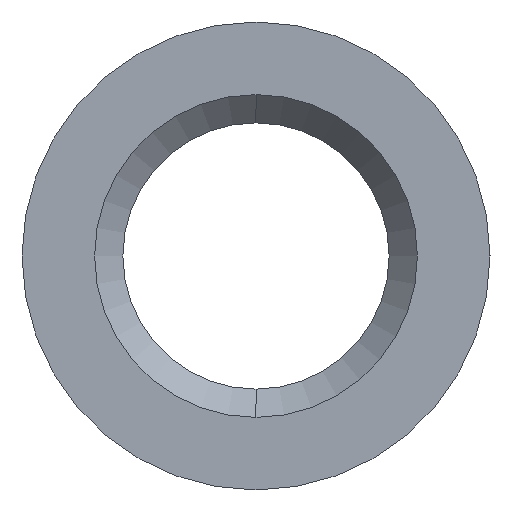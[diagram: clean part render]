
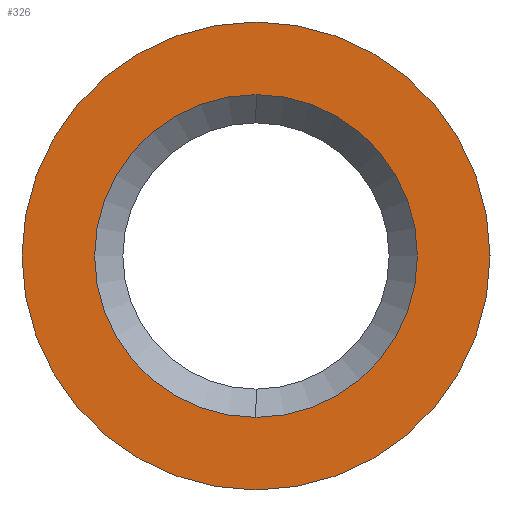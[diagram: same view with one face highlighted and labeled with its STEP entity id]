
A CAD part, left-side view. The second image highlights one B-rep face of the part: STEP entity #326.
In plain terms, the highlighted planar face has unit normal (-1, 0, 0).
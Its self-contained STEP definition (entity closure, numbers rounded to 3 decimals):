
#3 = CARTESIAN_POINT ( 'NONE',  ( -7.4, 0., 0. ) ) ;
#20 = VERTEX_POINT ( 'NONE', #154 ) ;
#66 = DIRECTION ( 'NONE',  ( 1., 0., 0. ) ) ;
#93 = EDGE_LOOP ( 'NONE', ( #624, #565 ) ) ;
#126 = CARTESIAN_POINT ( 'NONE',  ( -7.4, 0., 2. ) ) ;
#151 = ORIENTED_EDGE ( 'NONE', *, *, #228, .F. ) ;
#154 = CARTESIAN_POINT ( 'NONE',  ( -7.4, 0., -2. ) ) ;
#183 = ORIENTED_EDGE ( 'NONE', *, *, #574, .F. ) ;
#194 = DIRECTION ( 'NONE',  ( 0., 0., 1. ) ) ;
#228 = EDGE_CURVE ( 'NONE', #342, #307, #854, .T. ) ;
#239 = CARTESIAN_POINT ( 'NONE',  ( -7.4, 2.9, 0. ) ) ;
#269 = VERTEX_POINT ( 'NONE', #126 ) ;
#285 = DIRECTION ( 'NONE',  ( 1., 0., 0. ) ) ;
#295 = CARTESIAN_POINT ( 'NONE',  ( -7.4, 0., -2.9 ) ) ;
#307 = VERTEX_POINT ( 'NONE', #695 ) ;
#326 = ADVANCED_FACE ( 'NONE', ( #515, #657 ), #381, .T. ) ;
#333 = DIRECTION ( 'NONE',  ( 0., 0., -1. ) ) ;
#342 = VERTEX_POINT ( 'NONE', #295 ) ;
#381 = PLANE ( 'NONE',  #636 ) ;
#488 = CARTESIAN_POINT ( 'NONE',  ( -7.4, 0., 0. ) ) ;
#496 = AXIS2_PLACEMENT_3D ( 'NONE', #488, #703, #194 ) ;
#515 = FACE_BOUND ( 'NONE', #93, .T. ) ;
#541 = AXIS2_PLACEMENT_3D ( 'NONE', #3, #285, #581 ) ;
#545 = EDGE_CURVE ( 'NONE', #20, #269, #573, .T. ) ;
#565 = ORIENTED_EDGE ( 'NONE', *, *, #545, .T. ) ;
#573 = CIRCLE ( 'NONE', #901, 2. ) ;
#574 = EDGE_CURVE ( 'NONE', #307, #342, #855, .T. ) ;
#581 = DIRECTION ( 'NONE',  ( 0., 0., -1. ) ) ;
#598 = EDGE_LOOP ( 'NONE', ( #151, #183 ) ) ;
#622 = DIRECTION ( 'NONE',  ( 1., 0., 0. ) ) ;
#624 = ORIENTED_EDGE ( 'NONE', *, *, #766, .T. ) ;
#632 = CARTESIAN_POINT ( 'NONE',  ( -7.4, 0., 0. ) ) ;
#636 = AXIS2_PLACEMENT_3D ( 'NONE', #239, #647, #806 ) ;
#647 = DIRECTION ( 'NONE',  ( -1., 0., 0. ) ) ;
#657 = FACE_OUTER_BOUND ( 'NONE', #598, .T. ) ;
#695 = CARTESIAN_POINT ( 'NONE',  ( -7.4, 0., 2.9 ) ) ;
#703 = DIRECTION ( 'NONE',  ( 1., 0., 0. ) ) ;
#708 = AXIS2_PLACEMENT_3D ( 'NONE', #764, #622, #333 ) ;
#764 = CARTESIAN_POINT ( 'NONE',  ( -7.4, 0., 0. ) ) ;
#766 = EDGE_CURVE ( 'NONE', #269, #20, #796, .T. ) ;
#796 = CIRCLE ( 'NONE', #496, 2. ) ;
#806 = DIRECTION ( 'NONE',  ( 0., 0., 1. ) ) ;
#854 = CIRCLE ( 'NONE', #708, 2.9 ) ;
#855 = CIRCLE ( 'NONE', #541, 2.9 ) ;
#901 = AXIS2_PLACEMENT_3D ( 'NONE', #632, #66, #913 ) ;
#913 = DIRECTION ( 'NONE',  ( 0., 0., 1. ) ) ;
